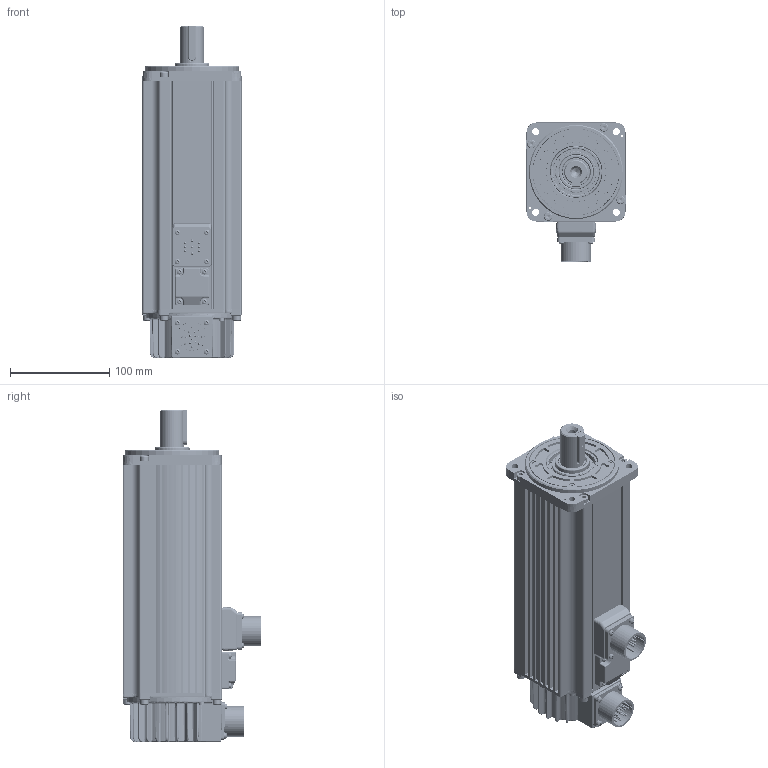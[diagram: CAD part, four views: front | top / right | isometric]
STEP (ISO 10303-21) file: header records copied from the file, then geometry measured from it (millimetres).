
FILE_DESCRIPTION((''),'2;1');
FILE_NAME('1111111_ASM','2019-11-15T15:22:42',('z17474'),(''),'CREO PARAMETRIC BY PTC INC, 2017260','CREO PARAMETRIC BY PTC INC, 2017260','');
FILE_SCHEMA(('CONFIG_CONTROL_DESIGN'));
Products named in the file (39): _100--D___AF000; _100__AF; _100_0001; _130H2__0001; ___AF000_ASM; ___AF0000; _100__AF_ASM; __0001_ASM; ___AF000; XIN__0001; 100--D___AF00; ____AF000; 22010917; 0000700396; 15050037-LJ; ____2; 22010052_1; 22010052_2_AF0; 22010052_2_AF1; 22010052_2_AF2; 22010052_2_AF3; 22010052_2; CB5-16_AF0; CB5-16_AF1; CB5-16_AF2; CB5-16_AF3; 22050021; CB5-16_AF4; CB5-16_AF5; CB5-16_AF6; CB5-16_AF7; 0312-1_AF0; 0312-1_AF1; 0312-1_AF2; 0312-1_AF3; 31100134-0001; 15050041-2LJ; 1111111_ASM
Assembly tree (56 placements, depth 3):
  1111111_ASM
    _100--D___AF000
    ___AF000_ASM
      _100__AF
      _100_0001
      _130H2__0001
    _100__AF_ASM
      ___AF0000
      ___AF0000
    __0001_ASM
    ___AF000
    XIN__0001
    _130H2__0001
    100--D___AF00
    ____AF000
    22010917
    0000700396
    15050037-LJ
    ____2
    22010052_1  x8
    22010052_2_AF0
    22010052_2_AF1
    22010052_2_AF2
    22010052_2_AF3
    22010052_2  x8
    CB5-16_AF0
    CB5-16_AF1
    CB5-16_AF2
    CB5-16_AF3
    22050021  x4
    CB5-16_AF4
    CB5-16_AF5
    CB5-16_AF6
    CB5-16_AF7
    0312-1_AF0
    0312-1_AF1
    0312-1_AF2
    0312-1_AF3
    31100134-0001
    15050041-2LJ
Bounding box: 100.1 x 140.05 x 335 mm (x, y, z)
Volume: 731468.1 mm3; surface area: 391417.5 mm2
Topology: 54 solids, 60 shells, 5242 faces, 11985 edges, 6833 vertices
Faces by surface type: cone 2005, cylinder 1768, plane 958, bspline 211, torus 168, sphere 132
Entity records: 117914 total; most frequent: CARTESIAN_POINT 37423, DIRECTION 17646, ORIENTED_EDGE 16196, EDGE_CURVE 8104, AXIS2_PLACEMENT_3D 6968, VERTEX_POINT 4856, EDGE_LOOP 3720, VECTOR 3710
